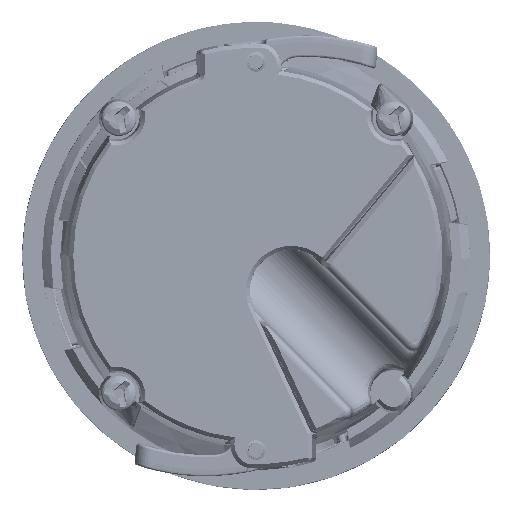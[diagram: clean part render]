
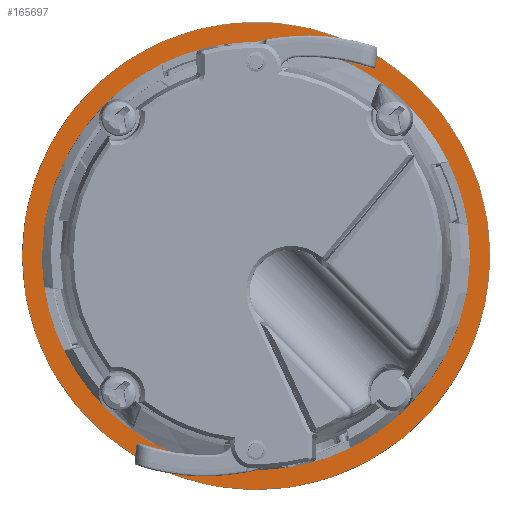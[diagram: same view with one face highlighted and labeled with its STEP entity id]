
A CAD part, left-side view. The second image highlights one B-rep face of the part: STEP entity #165697.
In plain terms, the highlighted planar face has unit normal (-1, 0, 0).
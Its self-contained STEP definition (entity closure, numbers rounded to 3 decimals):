
#2875 = CIRCLE ( 'NONE', #337761, 29.416 ) ;
#32537 = CARTESIAN_POINT ( 'NONE',  ( -3.5, 0., 0. ) ) ;
#32865 = DIRECTION ( 'NONE',  ( 1., 0., 0. ) ) ;
#63391 = PLANE ( 'NONE',  #354520 ) ;
#127467 = CARTESIAN_POINT ( 'NONE',  ( -3.5, 0., 0. ) ) ;
#128935 = CARTESIAN_POINT ( 'NONE',  ( -3.5, 29.416, 0. ) ) ;
#130971 = CARTESIAN_POINT ( 'NONE',  ( -3.5, 26.9, 0. ) ) ;
#144846 = ORIENTED_EDGE ( 'NONE', *, *, #242529, .F. ) ;
#155925 = DIRECTION ( 'NONE',  ( 0., -0.999, -0.044 ) ) ;
#157950 = DIRECTION ( 'NONE',  ( 1., 0., 0. ) ) ;
#165697 = ADVANCED_FACE ( 'NONE', ( #343098, #254616 ), #63391, .F. ) ;
#167731 = CIRCLE ( 'NONE', #299017, 26.9 ) ;
#198834 = DIRECTION ( 'NONE',  ( 1., 0., 0. ) ) ;
#219403 = EDGE_CURVE ( 'NONE', #375770, #375770, #167731, .T. ) ;
#220003 = DIRECTION ( 'NONE',  ( 0., 1., 0. ) ) ;
#242529 = EDGE_CURVE ( 'NONE', #346935, #346935, #2875, .T. ) ;
#254616 = FACE_OUTER_BOUND ( 'NONE', #313813, .T. ) ;
#299017 = AXIS2_PLACEMENT_3D ( 'NONE', #301553, #198834, #394113 ) ;
#301553 = CARTESIAN_POINT ( 'NONE',  ( -3.5, 0., 0. ) ) ;
#313813 = EDGE_LOOP ( 'NONE', ( #144846 ) ) ;
#337761 = AXIS2_PLACEMENT_3D ( 'NONE', #127467, #32865, #220003 ) ;
#343098 = FACE_BOUND ( 'NONE', #371612, .T. ) ;
#346935 = VERTEX_POINT ( 'NONE', #128935 ) ;
#354520 = AXIS2_PLACEMENT_3D ( 'NONE', #32537, #157950, #155925 ) ;
#364878 = ORIENTED_EDGE ( 'NONE', *, *, #219403, .T. ) ;
#371612 = EDGE_LOOP ( 'NONE', ( #364878 ) ) ;
#375770 = VERTEX_POINT ( 'NONE', #130971 ) ;
#394113 = DIRECTION ( 'NONE',  ( 0., 1., 0. ) ) ;
